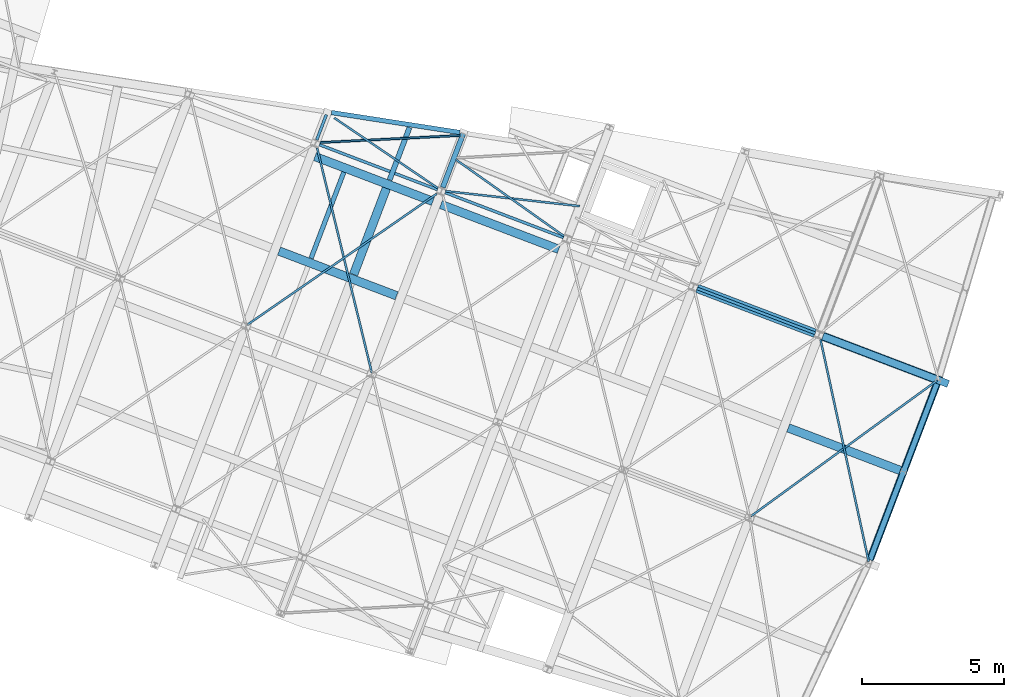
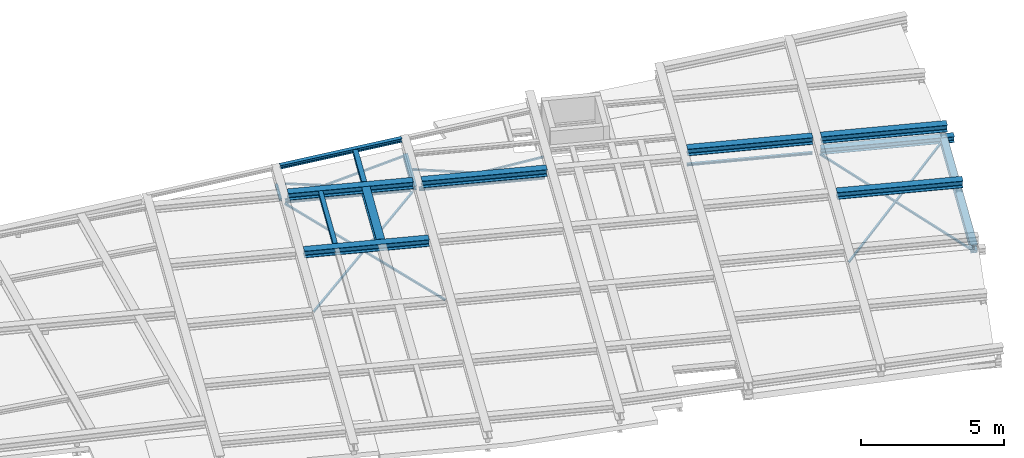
# One storey, part 16 of 21: 26 beams.
"""IFC2X3 building model written with IfcOpenShell, lengths in millimetres."""

from ifc_helpers import new_model, entity, si_unit, converted_unit, derived_unit, direction, frame, frame_2d, origin, place, context, subcontext, project, spatial, polyline, circle_curve, parameter, trimmed, segment, composite_curve, i_section, outline, extrude, material, type_object, element, save


model = new_model("IFC2X3")

# Units and contexts
model_context = context("Model", 3, precision=0.01, world=origin(), true_north=direction((6.123233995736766e-17, 1.0)))
body_context = subcontext(model_context, "Body", "Model", "MODEL_VIEW")
ifc_project = project(units=[si_unit("LENGTHUNIT", "METRE", prefix="MILLI"), converted_unit("PLANEANGLEUNIT", "DEGREE", entity("IfcPlaneAngleMeasure", 0.017453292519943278), si_unit("PLANEANGLEUNIT", "RADIAN"), dimensions=[0, 0, 0, 0, 0, 0, 0]), si_unit("AREAUNIT", "SQUARE_METRE"), derived_unit("THERMALTRANSMITTANCEUNIT", [(si_unit("MASSUNIT", "GRAM", prefix="KILO"), 1), (si_unit("THERMODYNAMICTEMPERATUREUNIT", "KELVIN"), -1), (si_unit("TIMEUNIT", "SECOND"), -3)])], contexts=[model_context])

# Site, building, storey
site_placement = place(None, frame((-72937.88054949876, 11621.45624098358, 0.0), z_axis=(0.0, 0.0, 1.0), x_axis=(0.9346418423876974, -0.35559053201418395, 0.0)))
site = spatial("IfcSite", under=ifc_project, at=site_placement, Name="Default", CompositionType="ELEMENT")
building_placement = place(site_placement, origin())
building = spatial("IfcBuilding", under=site, at=building_placement, CompositionType="ELEMENT")
storey_placement = place(building_placement, frame((0.0, 0.0, 4250.0)))
storey = spatial("IfcBuildingStorey", under=building, at=storey_placement, Name="01 eerste verdieping", CompositionType="ELEMENT", Elevation=4250.0)

# Beams
ifc_material_1 = material(Name="metaal_staal_generiek")
beam_type_1 = type_object("IfcBeamType", Name="DIE18", PredefinedType="BEAM")
beam_1_placement = place(storey_placement, frame((48110.0, 28760.0, -80.0), z_axis=(0.0, 0.0, 1.0), x_axis=(0.0, 1.0, 0.0)))
element("IfcBeam", 1, at=beam_1_placement, inside=storey, type_object=beam_type_1, material=ifc_material_1, Name="28.11_Stalen balk HEA", ObjectType="stalen balk HEA profiel", context=body_context, shape_type="SweptSolid", body=[
    extrude(i_section(OverallWidth=180.0000000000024, OverallDepth=171.0000000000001, WebThickness=5.999999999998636, FlangeThickness=9.500000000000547, FilletRadius=14.999999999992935, at=frame_2d((1.0800249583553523e-12, -1.2995826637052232e-11), x_axis=(0.0, 1.0))), frame((137.72133280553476, 0.0, -255.50000000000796), z_axis=(1.0, 0.0, 0.0), x_axis=(0.0, 0.0, -1.0)), (0.0, 0.0, 1.0), 2025.7999999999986),
])
beam_type_2 = type_object("IfcBeamType", Name="DIE10", PredefinedType="BEAM")
beam_2_placement = place(storey_placement, frame((43380.0, 28760.0, -80.0), z_axis=(0.0, 0.0, 1.0), x_axis=(0.0, 1.0, 0.0)))
element("IfcBeam", 2, at=beam_2_placement, inside=storey, type_object=beam_type_2, material=ifc_material_1, Name="28.11_Stalen balk HEA", ObjectType="stalen balk HEA profiel", context=body_context, shape_type="SweptSolid", body=[
    extrude(i_section(OverallWidth=100.00000000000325, OverallDepth=95.99999999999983, WebThickness=4.999999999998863, FlangeThickness=8.000000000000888, FilletRadius=11.999999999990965, at=frame_2d((1.623590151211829e-12, 8.665068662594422e-12), x_axis=(0.0, 1.0))), frame((125.0, 0.0, -218.0), z_axis=(1.0, 0.0, 0.0), x_axis=(0.0, 0.0, -1.0)), (0.0, 0.0, 1.0), 944.200000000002),
])
beam_3_placement = place(storey_placement, frame((57570.0, 28760.0, -80.0)))
element("IfcBeam", 3, at=beam_3_placement, inside=storey, type_object=beam_type_2, material=ifc_material_1, Name="28.11_Stalen balk HEA", ObjectType="stalen balk HEA profiel", context=body_context, shape_type="SweptSolid", body=[
    extrude(i_section(OverallWidth=99.99999999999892, OverallDepth=95.99999999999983, WebThickness=4.999999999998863, FlangeThickness=8.000000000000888, FilletRadius=12.000000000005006, at=frame_2d((1.623590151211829e-12, -6.497913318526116e-12), x_axis=(0.0, 1.0))), frame((142.69999999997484, 0.0, -218.0), z_axis=(1.0, 0.0, 0.0), x_axis=(0.0, 0.0, -1.0)), (0.0, 0.0, 1.0), 4444.600000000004),
])
beam_4_placement = place(storey_placement, frame((43380.0, 28760.0, -80.0)))
element("IfcBeam", 4, at=beam_4_placement, inside=storey, type_object=beam_type_2, material=ifc_material_1, Name="28.11_Stalen balk HEA", ObjectType="stalen balk HEA profiel", context=body_context, shape_type="SweptSolid", body=[
    extrude(i_section(OverallWidth=99.99999999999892, OverallDepth=95.99999999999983, WebThickness=4.999999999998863, FlangeThickness=8.000000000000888, FilletRadius=12.000000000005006, at=frame_2d((1.623590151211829e-12, -6.497913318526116e-12), x_axis=(0.0, 1.0))), frame((142.7000000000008, 0.0, -218.0), z_axis=(1.0, 0.0, 0.0), x_axis=(0.0, 0.0, -1.0)), (0.0, 0.0, 1.0), 4444.600000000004),
])
beam_5_placement = place(storey_placement, frame((48110.0, 28760.0, -80.0)))
element("IfcBeam", 5, at=beam_5_placement, inside=storey, type_object=beam_type_2, material=ifc_material_1, Name="28.11_Stalen balk HEA", ObjectType="stalen balk HEA profiel", context=body_context, shape_type="SweptSolid", body=[
    extrude(i_section(OverallWidth=99.99999999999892, OverallDepth=95.99999999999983, WebThickness=4.999999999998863, FlangeThickness=8.000000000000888, FilletRadius=12.000000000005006, at=frame_2d((1.623590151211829e-12, -6.497913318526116e-12), x_axis=(0.0, 1.0))), frame((142.69999999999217, 0.0, -218.0), z_axis=(1.0, 0.0, 0.0), x_axis=(0.0, 0.0, -1.0)), (0.0, 0.0, 1.0), 4444.600000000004),
])
beam_type_3 = type_object("IfcBeamType", Name="DIE26", PredefinedType="BEAM")
beam_6_placement = place(storey_placement, frame((66779.31423777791, 28760.0, -80.0), z_axis=(0.0, 0.0, 1.0), x_axis=(-1.0, 0.0, 0.0)))
element("IfcBeam", 6, at=beam_6_placement, inside=storey, type_object=beam_type_3, material=ifc_material_1, Name="28.11_Stalen balk HEA", ObjectType="stalen balk HEA profiel", context=body_context, shape_type="SweptSolid", body=[
    extrude(i_section(OverallWidth=260.00000000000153, OverallDepth=250.00000000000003, WebThickness=7.500000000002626, FlangeThickness=12.500000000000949, FilletRadius=23.999999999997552, at=frame_2d((-2.7000623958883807e-13, 4.320099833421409e-12), x_axis=(0.0, 1.0))), frame((-375.69288111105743, 0.0, -125.0), z_axis=(1.0, 0.0, 0.0), x_axis=(0.0, 0.0, -1.0)), (0.0, 0.0, 1.0), 4712.300000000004),
])
beam_7_placement = place(storey_placement, frame((66780.00015558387, 21880.0, -80.0), z_axis=(0.0, 0.0, 1.0), x_axis=(0.0, 1.0, 0.0)))
element("IfcBeam", 7, at=beam_7_placement, inside=storey, type_object=beam_type_3, material=ifc_material_1, Name="28.11_Stalen balk HEA", ObjectType="stalen balk HEA profiel", context=body_context, shape_type="SweptSolid", body=[
    extrude(i_section(OverallWidth=260.00000000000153, OverallDepth=250.00000000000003, WebThickness=7.499999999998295, FlangeThickness=12.500000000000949, FilletRadius=24.00000000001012, at=frame_2d((-2.7000623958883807e-13, -2.1657342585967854e-11), x_axis=(0.0, 1.0))), frame((130.0, 0.0, -125.0), z_axis=(1.0, 0.0, 0.0), x_axis=(0.0, 0.0, -1.0)), (0.0, 0.0, 1.0), 6620.000000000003),
])
beam_type_4 = type_object("IfcBeamType", Name="L70x7", PredefinedType="NOTDEFINED")
beam_8_placement = place(storey_placement, frame((48110.0, 28760.0, -270.0), z_axis=(0.0, 0.0, 1.0), x_axis=(-0.5665288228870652, -0.8240419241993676, 0.0)))
element("IfcBeam", 8, at=beam_8_placement, inside=storey, type_object=beam_type_4, material=ifc_material_1, Name="28.11_SF_WVB-L-Gelijkzijdig:L70x7", ObjectType="28.11_SF_WVB-L-Gelijkzijdig:L70x7", context=body_context, shape_type="SweptSolid", body=[
    extrude(outline(composite_curve([segment(polyline([(-26.444444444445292, -43.55555555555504), (-23.944444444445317, -43.55555555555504)]), True, "CONTINUOUS"), segment(trimmed(circle_curve(frame_2d((-23.944444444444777, -39.05555555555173), x_axis=(0.0, -1.0)), 4.499999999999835), [parameter(0.0)], [parameter(90.00000000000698)], True, "PARAMETER"), True, "CONTINUOUS"), segment(polyline([(-19.444444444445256, -39.05555555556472), (-19.444444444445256, 10.444444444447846)]), True, "CONTINUOUS"), segment(trimmed(circle_curve(frame_2d((-10.444444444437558, 10.44444444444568), x_axis=(-1.0, 0.0)), 9.000000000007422), [parameter(270.0000000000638)], [parameter(0.0)], True, "PARAMETER"), False, "CONTINUOUS"), segment(polyline([(-10.444444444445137, 19.44444444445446), (39.05555555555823, 19.44444444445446)]), True, "CONTINUOUS"), segment(trimmed(circle_curve(frame_2d((39.05555555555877, 23.944444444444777), x_axis=(0.0, -1.0)), 4.499999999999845), [parameter(0.0)], [parameter(90.00000000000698)], True, "PARAMETER"), True, "CONTINUOUS"), segment(polyline([(43.55555555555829, 23.944444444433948), (43.55555555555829, 26.44444444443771)]), True, "CONTINUOUS"), segment(polyline([(43.55555555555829, 26.44444444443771), (-26.444444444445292, 26.44444444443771)]), True, "CONTINUOUS"), segment(polyline([(-26.444444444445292, 26.44444444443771), (-26.444444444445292, -43.55555555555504)]), True, "CONTINUOUS")], self_intersect=False)), frame((189.39488537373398, -6.74444444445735, -6.7444444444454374), z_axis=(1.0, 0.0, 0.0), x_axis=(0.0, 0.0, -1.0)), (0.0, 0.0, 1.0), 8086.5000000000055),
])
beam_9_placement = place(storey_placement, frame((48110.0, 30838.04266561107, -270.0), z_axis=(0.0, 0.0, 1.0), x_axis=(-0.9155401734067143, -0.40222654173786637, 0.0)))
element("IfcBeam", 9, at=beam_9_placement, inside=storey, type_object=beam_type_4, material=ifc_material_1, Name="28.11_SF_WVB-L-Gelijkzijdig:L70x7", ObjectType="28.11_SF_WVB-L-Gelijkzijdig:L70x7", context=body_context, shape_type="SweptSolid", body=[
    extrude(outline(composite_curve([segment(polyline([(-26.444444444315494, -43.55555555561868), (-23.94444444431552, -43.555555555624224)]), True, "CONTINUOUS"), segment(trimmed(circle_curve(frame_2d((-23.944444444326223, -39.05555555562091), x_axis=(0.0, -1.0)), 4.499999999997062), [parameter(0.0)], [parameter(90.00000000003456)], True, "PARAMETER"), True, "CONTINUOUS"), segment(polyline([(-19.44444444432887, -39.055555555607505), (-19.44444444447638, 10.444444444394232)]), True, "CONTINUOUS"), segment(trimmed(circle_curve(frame_2d((-10.444444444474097, 10.444444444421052), x_axis=(-1.0, 0.0)), 9.000000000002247), [parameter(270.0000000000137)], [parameter(0.0)], True, "PARAMETER"), False, "CONTINUOUS"), segment(polyline([(-10.444444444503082, 19.444444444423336), (39.055555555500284, 19.44444444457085)]), True, "CONTINUOUS"), segment(trimmed(circle_curve(frame_2d((39.05555555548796, 23.944444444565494), x_axis=(0.0, -1.0)), 4.499999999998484), [parameter(0.0)], [parameter(90.00000000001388)], True, "PARAMETER"), True, "CONTINUOUS"), segment(polyline([(43.55555555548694, 23.944444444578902), (43.555555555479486, 26.44444444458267)]), True, "CONTINUOUS"), segment(polyline([(43.555555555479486, 26.44444444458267), (-26.4444444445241, 26.44444444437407)]), True, "CONTINUOUS"), segment(polyline([(-26.4444444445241, 26.444444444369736), (-26.444444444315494, -43.55555555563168)]), True, "CONTINUOUS")], self_intersect=False)), frame((85.72446759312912, -6.74444444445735, -6.7444444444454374), z_axis=(1.0, 0.0, 0.0), x_axis=(0.0, 0.0, -1.0)), (0.0, 0.0, 1.0), 4916.500000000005),
])
beam_type_5 = type_object("IfcBeamType", Name="L70x7", PredefinedType="BEAM")
beam_10_placement = place(storey_placement, frame((66779.68145791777, 28759.510571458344, -270.0), z_axis=(0.0, 0.0, 1.0), x_axis=(-0.5456731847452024, -0.837998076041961, 0.0)))
element("IfcBeam", 10, at=beam_10_placement, inside=storey, type_object=beam_type_5, material=ifc_material_1, Name="28.11_SF_WVB-L-Gelijkzijdig:L70x7", ObjectType="28.11_SF_WVB-L-Gelijkzijdig:L70x7", context=body_context, shape_type="SweptSolid", body=[
    extrude(outline(composite_curve([segment(polyline([(-26.444444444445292, -43.55555555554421), (-23.944444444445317, -43.55555555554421)]), True, "CONTINUOUS"), segment(trimmed(circle_curve(frame_2d((-23.944444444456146, -39.05555555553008), x_axis=(0.0, -1.0)), 4.500000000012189), [parameter(0.0)], [parameter(89.99999999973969)], True, "PARAMETER"), True, "CONTINUOUS"), segment(polyline([(-19.444444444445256, -39.055555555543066), (-19.444444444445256, 10.44444444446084)]), True, "CONTINUOUS"), segment(trimmed(circle_curve(frame_2d((-10.44444444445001, 10.444444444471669), x_axis=(-1.0, 0.0)), 8.999999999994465), [parameter(269.99999999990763)], [parameter(0.0)], True, "PARAMETER"), False, "CONTINUOUS"), segment(polyline([(-10.444444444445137, 19.444444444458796), (39.05555555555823, 19.44444444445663)]), True, "CONTINUOUS"), segment(trimmed(circle_curve(frame_2d((39.05555555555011, 23.944444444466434), x_axis=(0.0, -1.0)), 4.500000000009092), [parameter(0.0)], [parameter(89.99999999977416)], True, "PARAMETER"), True, "CONTINUOUS"), segment(polyline([(43.55555555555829, 23.944444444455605), (43.55555555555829, 26.444444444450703)]), True, "CONTINUOUS"), segment(polyline([(43.55555555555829, 26.444444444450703), (-26.444444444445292, 26.444444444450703)]), True, "CONTINUOUS"), segment(polyline([(-26.444444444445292, 26.444444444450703), (-26.444444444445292, -43.55555555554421)]), True, "CONTINUOUS")], self_intersect=False)), frame((40.879335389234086, -6.744444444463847, -6.7444444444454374), z_axis=(1.0, 0.0, 0.0), x_axis=(0.0, 0.0, -1.0)), (0.0, 0.0, 1.0), 8093.400000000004),
])
beam_11_placement = place(storey_placement, frame((66780.00015558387, 21880.0, -270.0), z_axis=(0.0, 0.0, 1.0), x_axis=(-0.5456731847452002, 0.8379980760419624, 0.0)))
element("IfcBeam", 11, at=beam_11_placement, inside=storey, type_object=beam_type_5, material=ifc_material_1, Name="28.11_SF_WVB-L-Gelijkzijdig:L70x7", ObjectType="28.11_SF_WVB-L-Gelijkzijdig:L70x7", context=body_context, shape_type="SweptSolid", body=[
    extrude(outline(composite_curve([segment(polyline([(-26.444444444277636, -43.555555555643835), (-23.94444444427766, -43.55555555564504)]), True, "CONTINUOUS"), segment(trimmed(circle_curve(frame_2d((-23.944444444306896, -39.05555555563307), x_axis=(0.0, -1.0)), 4.500000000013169), [parameter(0.0)], [parameter(89.9999999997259)], True, "PARAMETER"), True, "CONTINUOUS"), segment(polyline([(-19.444444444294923, -39.055555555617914), (-19.44444444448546, 10.444444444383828)]), True, "CONTINUOUS"), segment(trimmed(circle_curve(frame_2d((-10.444444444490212, 10.444444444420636), x_axis=(-1.0, 0.0)), 8.999999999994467), [parameter(269.99999999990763)], [parameter(0.0)], True, "PARAMETER"), False, "CONTINUOUS"), segment(polyline([(-10.444444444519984, 19.444444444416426), (39.05555555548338, 19.44444444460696)]), True, "CONTINUOUS"), segment(trimmed(circle_curve(frame_2d((39.05555555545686, 23.94444444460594), x_axis=(0.0, -1.0)), 4.500000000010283), [parameter(0.0)], [parameter(89.99999999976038)], True, "PARAMETER"), True, "CONTINUOUS"), segment(polyline([(43.55555555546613, 23.94444444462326), (43.5555555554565, 26.44444444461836)]), True, "CONTINUOUS"), segment(polyline([(43.5555555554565, 26.44444444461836), (-26.444444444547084, 26.44444444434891)]), True, "CONTINUOUS"), segment(polyline([(-26.444444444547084, 26.44444444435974), (-26.444444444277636, -43.555555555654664)]), True, "CONTINUOUS")], self_intersect=False)), frame((56.32135786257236, -6.744444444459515, -6.7444444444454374), z_axis=(1.0, 0.0, 0.0), x_axis=(0.0, 0.0, -1.0)), (0.0, 0.0, 1.0), 7978.00000000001),
])
beam_12_placement = place(storey_placement, frame((48110.0, 21880.0, -270.0), z_axis=(0.0, 0.0, 1.0), x_axis=(-0.5665288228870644, 0.8240419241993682, 0.0)))
element("IfcBeam", 12, at=beam_12_placement, inside=storey, type_object=beam_type_5, material=ifc_material_1, Name="28.11_SF_WVB-L-Gelijkzijdig:L70x7", ObjectType="28.11_SF_WVB-L-Gelijkzijdig:L70x7", context=body_context, shape_type="SweptSolid", body=[
    extrude(outline(composite_curve([segment(polyline([(-26.44444444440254, -43.555555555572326), (-23.944444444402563, -43.55555555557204)]), True, "CONTINUOUS"), segment(trimmed(circle_curve(frame_2d((-23.944444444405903, -39.0555555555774), x_axis=(0.0, -1.0)), 4.499999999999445), [parameter(0.0)], [parameter(90.00000000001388)], True, "PARAMETER"), True, "CONTINUOUS"), segment(polyline([(-19.444444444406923, -39.05555555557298), (-19.44444444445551, 10.44444444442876)]), True, "CONTINUOUS"), segment(trimmed(circle_curve(frame_2d((-10.444444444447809, 10.444444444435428), x_axis=(-1.0, 0.0)), 9.00000000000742), [parameter(270.0000000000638)], [parameter(0.0)], True, "PARAMETER"), False, "CONTINUOUS"), segment(polyline([(-10.444444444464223, 19.444444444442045), (39.055555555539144, 19.444444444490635)]), True, "CONTINUOUS"), segment(trimmed(circle_curve(frame_2d((39.055555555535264, 23.944444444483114), x_axis=(0.0, -1.0)), 4.499999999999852), [parameter(0.0)], [parameter(90.00000000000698)], True, "PARAMETER"), True, "CONTINUOUS"), segment(polyline([(43.55555555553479, 23.944444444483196), (43.55555555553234, 26.444444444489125)]), True, "CONTINUOUS"), segment(polyline([(43.55555555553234, 26.444444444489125), (-26.444444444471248, 26.444444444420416)]), True, "CONTINUOUS"), segment(polyline([(-26.444444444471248, 26.444444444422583), (-26.44444444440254, -43.55555555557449)]), True, "CONTINUOUS")], self_intersect=False)), frame((53.09488537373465, -6.744444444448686, -6.7444444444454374), z_axis=(1.0, 0.0, 0.0), x_axis=(0.0, 0.0, -1.0)), (0.0, 0.0, 1.0), 8119.300000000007),
])
beam_13_placement = place(storey_placement, frame((48110.0, 28760.0, -270.0), z_axis=(0.0, 0.0, 1.0), x_axis=(-0.9730924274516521, 0.23041512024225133, 0.0)))
element("IfcBeam", 13, at=beam_13_placement, inside=storey, type_object=beam_type_5, material=ifc_material_1, Name="28.11_SF_WVB-L-Gelijkzijdig:L70x7", ObjectType="28.11_SF_WVB-L-Gelijkzijdig:L70x7", context=body_context, shape_type="SweptSolid", body=[
    extrude(outline(composite_curve([segment(polyline([(-26.444444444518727, -43.555555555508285), (-23.94444444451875, -43.555555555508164)]), True, "CONTINUOUS"), segment(trimmed(circle_curve(frame_2d((-23.944444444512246, -39.05555555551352), x_axis=(0.0, -1.0)), 4.500000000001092), [parameter(0.0)], [parameter(89.99999999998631)], True, "PARAMETER"), True, "CONTINUOUS"), segment(polyline([(-19.444444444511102, -39.055555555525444), (-19.44444444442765, 10.44444444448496)]), True, "CONTINUOUS"), segment(trimmed(circle_curve(frame_2d((-10.444444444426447, 10.444444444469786), x_axis=(-1.0, 0.0)), 9.000000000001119), [parameter(270.00000000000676)], [parameter(0.0)], True, "PARAMETER"), False, "CONTINUOUS"), segment(polyline([(-10.444444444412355, 19.44444444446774), (39.05555555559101, 19.444444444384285)]), True, "CONTINUOUS"), segment(trimmed(circle_curve(frame_2d((39.05555555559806, 23.944444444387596), x_axis=(0.0, -1.0)), 4.50000000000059), [parameter(0.0)], [parameter(89.9999999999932)], True, "PARAMETER"), True, "CONTINUOUS"), segment(polyline([(43.555555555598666, 23.944444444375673), (43.55555555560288, 26.44444444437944)]), True, "CONTINUOUS"), segment(polyline([(43.55555555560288, 26.444444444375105), (-26.44444444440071, 26.44444444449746)]), True, "CONTINUOUS"), segment(polyline([(-26.44444444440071, 26.444444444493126), (-26.444444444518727, -43.55555555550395)]), True, "CONTINUOUS")], self_intersect=False)), frame((158.27477840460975, -6.74444444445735, -6.7444444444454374), z_axis=(1.0, 0.0, 0.0), x_axis=(0.0, 0.0, -1.0)), (0.0, 0.0, 1.0), 4396.3000000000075),
])
beam_type_6 = type_object("IfcBeamType", Name="L70x7", PredefinedType="JOIST")
beam_14_placement = place(storey_placement, frame((52839.949747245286, 29980.0, -270.0), z_axis=(0.0, 0.0, 1.0), x_axis=(-0.9683086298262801, -0.24975667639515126, 0.0)))
element("IfcBeam", 14, at=beam_14_placement, inside=storey, type_object=beam_type_6, material=ifc_material_1, Name="28.11_SF_WVB-L-Gelijkzijdig:L70x7", ObjectType="28.11_SF_WVB-L-Gelijkzijdig:L70x7", context=body_context, shape_type="SweptSolid", body=[
    extrude(outline(composite_curve([segment(polyline([(-26.444444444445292, -43.5555555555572), (-23.944444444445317, -43.5555555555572)]), True, "CONTINUOUS"), segment(trimmed(circle_curve(frame_2d((-23.94444444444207, -39.055555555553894), x_axis=(0.0, -1.0)), 4.499999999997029), [parameter(0.0)], [parameter(90.00000000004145)], True, "PARAMETER"), True, "CONTINUOUS"), segment(polyline([(-19.444444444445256, -39.05555555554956), (-19.444444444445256, 10.444444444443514)]), True, "CONTINUOUS"), segment(trimmed(circle_curve(frame_2d((-10.444444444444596, 10.444444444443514), x_axis=(-1.0, 0.0)), 9.000000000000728), [parameter(270.00000000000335)], [parameter(0.0)], True, "PARAMETER"), False, "CONTINUOUS"), segment(polyline([(-10.444444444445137, 19.44444444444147), (39.05555555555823, 19.44444444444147)]), True, "CONTINUOUS"), segment(trimmed(circle_curve(frame_2d((39.055555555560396, 23.944444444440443), x_axis=(0.0, -1.0)), 4.4999999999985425), [parameter(0.0)], [parameter(90.00000000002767)], True, "PARAMETER"), True, "CONTINUOUS"), segment(polyline([(43.55555555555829, 23.944444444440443), (43.55555555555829, 26.44444444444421)]), True, "CONTINUOUS"), segment(polyline([(43.55555555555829, 26.44444444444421), (-26.444444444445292, 26.44444444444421)]), True, "CONTINUOUS"), segment(polyline([(-26.444444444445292, 26.44444444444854), (-26.444444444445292, -43.5555555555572)]), True, "CONTINUOUS")], self_intersect=False)), frame((0.027152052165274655, -6.744444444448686, -6.7444444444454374), z_axis=(1.0, 0.0, 0.0), x_axis=(0.0, 0.0, -1.0)), (0.0, 0.0, 1.0), 4737.400000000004),
])
beam_15_placement = place(storey_placement, frame((52840.0, 28760.0, -270.0), z_axis=(0.0, 0.0, 1.0), x_axis=(-0.9683092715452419, 0.24975418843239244, 0.0)))
element("IfcBeam", 15, at=beam_15_placement, inside=storey, type_object=beam_type_6, material=ifc_material_1, Name="28.11_SF_WVB-L-Gelijkzijdig:L70x7", ObjectType="28.11_SF_WVB-L-Gelijkzijdig:L70x7", context=body_context, shape_type="SweptSolid", body=[
    extrude(outline(composite_curve([segment(polyline([(-26.444444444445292, -43.555555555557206), (-23.944444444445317, -43.555555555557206)]), True, "CONTINUOUS"), segment(trimmed(circle_curve(frame_2d((-23.94444444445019, -39.055555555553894), x_axis=(0.0, -1.0)), 4.500000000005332), [parameter(0.0)], [parameter(89.99999999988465)], True, "PARAMETER"), True, "CONTINUOUS"), segment(polyline([(-19.444444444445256, -39.05555555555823), (-19.444444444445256, 10.444444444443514)]), True, "CONTINUOUS"), segment(trimmed(circle_curve(frame_2d((-10.444444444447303, 10.444444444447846), x_axis=(-1.0, 0.0)), 8.999999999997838), [parameter(269.9999999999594)], [parameter(0.0)], True, "PARAMETER"), False, "CONTINUOUS"), segment(polyline([(-10.444444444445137, 19.44444444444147), (39.05555555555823, 19.44444444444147)]), True, "CONTINUOUS"), segment(trimmed(circle_curve(frame_2d((39.0555555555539, 23.944444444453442), x_axis=(0.0, -1.0)), 4.5000000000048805), [parameter(0.0)], [parameter(89.99999999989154)], True, "PARAMETER"), True, "CONTINUOUS"), segment(polyline([(43.55555555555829, 23.944444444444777), (43.55555555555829, 26.444444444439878)]), True, "CONTINUOUS"), segment(polyline([(43.55555555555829, 26.444444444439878), (-26.444444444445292, 26.444444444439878)]), True, "CONTINUOUS"), segment(polyline([(-26.444444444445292, 26.44444444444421), (-26.444444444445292, -43.555555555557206)]), True, "CONTINUOUS")], self_intersect=False)), frame((160.0014821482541, -6.74444444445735, -6.7444444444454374), z_axis=(1.0, 0.0, 0.0), x_axis=(0.0, 0.0, -1.0)), (0.0, 0.0, 1.0), 4630.100000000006),
])
beam_type_7 = type_object("IfcBeamType", Name="UNP240", PredefinedType="NOTDEFINED")
beam_16_placement = place(storey_placement, frame((66780.00015558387, 22010.0, -330.0), z_axis=(0.0, 0.0, 1.0), x_axis=(0.0, 1.0, 0.0)))
element("IfcBeam", 16, at=beam_16_placement, inside=storey, type_object=beam_type_7, material=ifc_material_1, Name="28.11_SF_BalkUNP:UNP240", ObjectType="28.11_SF_BalkUNP:UNP240", context=body_context, shape_type="SweptSolid", body=[
    extrude(outline(composite_curve([segment(polyline([(-38.33631675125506, -120.0), (46.66368324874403, -120.0)]), True, "CONTINUOUS"), segment(polyline([(46.66368324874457, -120.0), (46.66368324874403, 120.0)]), True, "CONTINUOUS"), segment(polyline([(46.66368324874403, 120.0), (-38.33631675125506, 120.0)]), True, "CONTINUOUS"), segment(polyline([(-38.33631675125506, 120.0), (-38.33631675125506, 116.39825158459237)]), True, "CONTINUOUS"), segment(trimmed(circle_curve(frame_2d((-31.836316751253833, 116.39825158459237), x_axis=(-1.0, 0.0)), 6.500000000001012), [parameter(0.0)], [parameter(85.42999999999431)], True, "PARAMETER"), True, "CONTINUOUS"), segment(polyline([(-32.35421725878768, 109.91891681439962), (25.19948426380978, 105.31858479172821)]), True, "CONTINUOUS"), segment(trimmed(circle_curve(frame_2d((24.16368324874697, 92.35991525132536), x_axis=(0.07967700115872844, 0.9968207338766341)), 12.999999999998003), [parameter(274.5699999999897)], [parameter(0.0)], True, "PARAMETER"), False, "CONTINUOUS"), segment(polyline([(37.163683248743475, 92.35991525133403), (37.163683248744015, -92.35991525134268)]), True, "CONTINUOUS"), segment(trimmed(circle_curve(frame_2d((24.16368324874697, -92.35991525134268), x_axis=(1.0, 0.0)), 12.999999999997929), [parameter(274.5699999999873)], [parameter(0.0)], True, "PARAMETER"), False, "CONTINUOUS"), segment(polyline([(25.19948426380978, -105.31858479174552), (-32.35421725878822, -109.91891681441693)]), True, "CONTINUOUS"), segment(trimmed(circle_curve(frame_2d((-31.836316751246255, -116.3982515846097), x_axis=(-0.07967700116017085, 0.9968207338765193)), 6.500000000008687), [parameter(0.0)], [parameter(85.4299999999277)], True, "PARAMETER"), True, "CONTINUOUS"), segment(polyline([(-38.33631675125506, -116.3982515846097), (-38.33631675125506, -120.0)]), True, "CONTINUOUS")], self_intersect=False)), frame((0.0, 0.0, -38.33631675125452), z_axis=(1.0, 0.0, 0.0), x_axis=(0.0, 0.0, -1.0)), (0.0, 0.0, 1.0), 6620.000000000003),
])
ifc_material_2 = material(Name="metaal_staal_profiel_s235")
beam_type_8 = type_object("IfcBeamType", Name="HEA300", PredefinedType="BEAM")
beam_17_placement = place(storey_placement, frame((66779.31423777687, 28760.0, 450.0), z_axis=(0.0, 0.0, 1.0), x_axis=(-1.0, 0.0, 0.0)))
element("IfcBeam", 17, at=beam_17_placement, inside=storey, type_object=beam_type_8, material=ifc_material_2, Name="28.11_Stalen balk HEA", ObjectType="stalen balk HEA profiel", context=body_context, shape_type="SweptSolid", body=[
    extrude(i_section(OverallWidth=299.99999999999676, OverallDepth=290.0000000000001, WebThickness=8.500000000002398, FlangeThickness=14.00000000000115, FilletRadius=26.999999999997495, at=frame_2d((0.0, -6.494360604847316e-12), x_axis=(0.0, 1.0))), frame((-124.99288111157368, 0.0, -145.0), z_axis=(1.0, 0.0, 0.0), x_axis=(0.0, 0.0, -1.0)), (0.0, 0.0, 1.0), 4454.300000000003),
])
beam_18_placement = place(storey_placement, frame((62300.0, 28760.0, 450.0), z_axis=(0.0, 0.0, 1.0), x_axis=(-1.0, 0.0, 0.0)))
element("IfcBeam", 18, at=beam_18_placement, inside=storey, type_object=beam_type_8, material=ifc_material_2, Name="28.11_Stalen balk HEA", ObjectType="stalen balk HEA profiel", context=body_context, shape_type="SweptSolid", body=[
    extrude(i_section(OverallWidth=299.99999999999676, OverallDepth=290.0000000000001, WebThickness=8.500000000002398, FlangeThickness=14.000000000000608, FilletRadius=26.999999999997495, at=frame_2d((0.0, 2.1600499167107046e-12), x_axis=(0.0, 1.0))), frame((150.0, 0.0, -145.0), z_axis=(1.0, 0.0, 0.0), x_axis=(0.0, 0.0, -1.0)), (0.0, 0.0, 1.0), 4429.999999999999),
])
beam_19_placement = place(storey_placement, frame((66779.31423777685, 25320.000811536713, 450.0), z_axis=(0.0, 0.0, 1.0), x_axis=(-1.0, 0.0, 0.0)))
element("IfcBeam", 19, at=beam_19_placement, inside=storey, type_object=beam_type_8, material=ifc_material_2, Name="28.11_Stalen balk HEA", ObjectType="stalen balk HEA profiel", context=body_context, shape_type="SweptSolid", body=[
    extrude(i_section(OverallWidth=299.99999999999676, OverallDepth=290.0000000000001, WebThickness=8.500000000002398, FlangeThickness=14.00000000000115, FilletRadius=26.999999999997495, at=frame_2d((0.0, -2.1600499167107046e-12), x_axis=(0.0, 1.0))), frame((-124.992881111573, 0.0, -145.0), z_axis=(1.0, 0.0, 0.0), x_axis=(0.0, 0.0, -1.0)), (0.0, 0.0, 1.0), 4454.300000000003),
])
for number, where, z_axis, x_axis, name in (
    (20, (52840.0, 28315.000128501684, 450.0), (0.0, 0.0, 1.0), (-1.0, 0.0, 0.0), "28.11_Stalen balk HEA"),
    (21, (48110.0, 28315.000128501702, 450.0), (0.0, 0.0, 1.0), (-1.0, 0.0, 0.0), "28.11_Stalen balk HEA"),
):
    element("IfcBeam", number, at=place(storey_placement, frame(where, z_axis=z_axis, x_axis=x_axis)), inside=storey, type_object=beam_type_8, material=ifc_material_2, Name=name, ObjectType="stalen balk HEA profiel", context=body_context, shape_type="SweptSolid", body=[
        extrude(i_section(OverallWidth=299.99999999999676, OverallDepth=290.0000000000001, WebThickness=8.500000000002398, FlangeThickness=14.000000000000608, FilletRadius=26.999999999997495, at=frame_2d((0.0, 2.1600499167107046e-12), x_axis=(0.0, 1.0))), frame((150.0, 0.0, -145.0), z_axis=(1.0, 0.0, 0.0), x_axis=(0.0, 0.0, -1.0)), (0.0, 0.0, 1.0), 4429.999999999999),
    ])
beam_20_placement = place(storey_placement, frame((48110.0, 24765.0001285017, 450.0), z_axis=(0.0, 0.0, 1.0), x_axis=(-1.0, 0.0, 0.0)))
element("IfcBeam", 22, at=beam_20_placement, inside=storey, type_object=beam_type_8, material=ifc_material_2, Name="28.11_Stalen balk HEA", ObjectType="stalen balk HEA profiel", context=body_context, shape_type="SweptSolid", body=[
    extrude(i_section(OverallWidth=299.99999999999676, OverallDepth=290.0000000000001, WebThickness=8.500000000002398, FlangeThickness=14.000000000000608, FilletRadius=26.999999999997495, at=frame_2d((0.0, 6.494360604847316e-12), x_axis=(0.0, 1.0))), frame((162.7000000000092, 0.0, -145.0), z_axis=(1.0, 0.0, 0.0), x_axis=(0.0, 0.0, -1.0)), (0.0, 0.0, 1.0), 4417.300000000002),
])
beam_21_placement = place(storey_placement, frame((46270.0, 24765.000128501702, 450.0), z_axis=(0.0, 0.0, 1.0), x_axis=(0.0, 1.0, 0.0)))
element("IfcBeam", 23, at=beam_21_placement, inside=storey, type_object=beam_type_8, material=ifc_material_2, Name="28.11_Stalen balk HEA", ObjectType="stalen balk HEA profiel", context=body_context, shape_type="SweptSolid", body=[
    extrude(i_section(OverallWidth=300.0000000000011, OverallDepth=290.0000000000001, WebThickness=8.499999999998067, FlangeThickness=14.000000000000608, FilletRadius=26.999999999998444, at=frame_2d((1.6200374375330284e-12, 0.0), x_axis=(0.0, 1.0))), frame((162.70000000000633, 0.0, -145.0), z_axis=(1.0, 0.0, 0.0), x_axis=(0.0, 0.0, -1.0)), (0.0, 0.0, 1.0), 3237.300000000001),
])
beam_type_9 = type_object("IfcBeamType", Name="HEA180", PredefinedType="BEAM")
beam_22_placement = place(storey_placement, frame((46270.0, 28315.000257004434, 450.0), z_axis=(0.0, 0.0, 1.0), x_axis=(0.0, 1.0, 0.0)))
element("IfcBeam", 24, at=beam_22_placement, inside=storey, type_object=beam_type_9, material=ifc_material_2, Name="28.11_Stalen balk HEA", ObjectType="stalen balk HEA profiel", context=body_context, shape_type="SweptSolid", body=[
    extrude(i_section(OverallWidth=179.99999999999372, OverallDepth=171.0000000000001, WebThickness=5.999999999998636, FlangeThickness=9.500000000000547, FilletRadius=14.999999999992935, at=frame_2d((1.0800249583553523e-12, -4.334310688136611e-12), x_axis=(0.0, 1.0))), frame((162.73465453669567, 0.0, -85.50000000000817), z_axis=(1.0, 0.0, 0.0), x_axis=(0.0, 0.0, -1.0)), (0.0, 0.0, 1.0), 1971.200000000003),
])
beam_type_10 = type_object("IfcBeamType", Name="HEA160", PredefinedType="BEAM")
beam_23_placement = place(storey_placement, frame((48110.0, 30940.871746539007, 450.0), z_axis=(0.0, 0.0, 1.0), x_axis=(-0.9781586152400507, -0.20785986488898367, 0.0)))
element("IfcBeam", 25, at=beam_23_placement, inside=storey, type_object=beam_type_10, material=ifc_material_2, Name="28.11_Stalen balk HEA", ObjectType="stalen balk HEA profiel", context=body_context, shape_type="SweptSolid", body=[
    extrude(i_section(OverallWidth=160.00000000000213, OverallDepth=152.00000000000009, WebThickness=5.999999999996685, FlangeThickness=9.00000000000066, FilletRadius=15.000000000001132, at=frame_2d((2.7000623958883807e-13, -2.1245227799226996e-12), x_axis=(0.0, 1.0))), frame((132.7582809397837, 0.0, -76.0), z_axis=(1.0, 0.0, 0.0), x_axis=(0.0, 0.0, -1.0)), (0.0, 0.0, 1.0), 4556.10000000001),
])
beam_24_placement = place(storey_placement, frame((44672.13926068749, 24765.000128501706, 450.0), z_axis=(0.0, 0.0, 1.0), x_axis=(0.0, 1.0, 0.0)))
element("IfcBeam", 26, at=beam_24_placement, inside=storey, type_object=beam_type_10, material=ifc_material_2, Name="28.11_Stalen balk HEA", ObjectType="stalen balk HEA profiel", context=body_context, shape_type="SweptSolid", body=[
    extrude(i_section(OverallWidth=159.99999999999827, OverallDepth=152.00000000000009, WebThickness=5.999999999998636, FlangeThickness=9.00000000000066, FilletRadius=14.999999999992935, at=frame_2d((5.400124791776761e-13, 0.0), x_axis=(0.0, 1.0))), frame((162.700000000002, 0.0, -76.0), z_axis=(1.0, 0.0, 0.0), x_axis=(0.0, 0.0, -1.0)), (0.0, 0.0, 1.0), 3237.300000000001),
])

save(model, "model.ifc")
